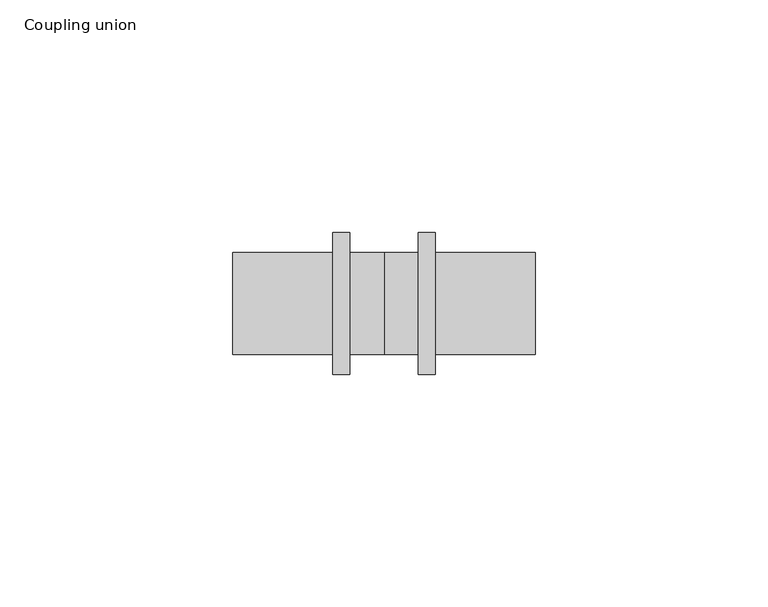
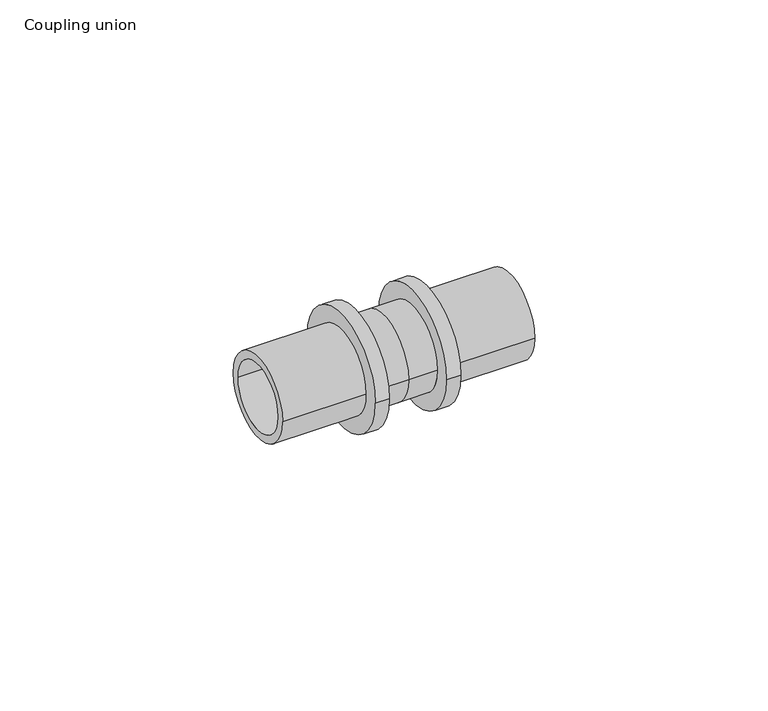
"""IFC4 building model written with IfcOpenShell, lengths in millimetres: pipe fitting geometry, Coupling union : C EQ SDR11 LX."""

from ifc_helpers import new_model, si_unit, frame, origin, place, context, project, spatial, polyline, circle_curve, source, transform, mapped, element, save
from ifc_brep_helpers import plane_surface, cylinder_surface, revolved_surface, advanced_brep


def coupling_union_24488497(model_context):
    return source(origin(), model_context, "Body", "AdvancedBrep", [
        advanced_brep(
        [(11.0, 15.25, 0.0), (11.0, -15.25, 0.0), (7.4, -15.25, 0.0), (7.4, 15.25, 0.0), (32.5, 11.0, 0.0), (32.5, -11.0, 0.0), (11.0, -11.0, 0.0), (11.0, 11.0, 0.0), (-32.5, 8.9, 0.0), (-32.5, -8.9, 0.0), (32.5, -8.9, 0.0), (32.5, 8.9, 0.0), (-11.0, 11.0, 0.0), (-11.0, -11.0, 0.0), (-32.5, -11.0, 0.0), (-32.5, 11.0, 0.0), (-7.4, 15.25, 0.0), (-7.4, -15.25, 0.0), (-11.0, -15.25, 0.0), (-11.0, 15.25, 0.0), (0.0, 11.0, 0.0), (0.0, -11.0, 0.0), (-7.4, -11.0, 0.0), (-7.4, 11.0, 0.0), (7.4, 11.0, 0.0), (7.4, -11.0, 0.0)],
        [
            (0, 1, circle_curve(frame((11.0, 0.0, 0.0), z_axis=(-1.0, 0.0, 0.0), x_axis=(0.0, -1.0, 0.0)), 15.25)),
            (1, 2),
            (2, 3, circle_curve(frame((7.4, 0.0, 0.0), z_axis=(1.0, 0.0, 0.0), x_axis=(0.0, -1.0, 0.0)), 15.25)),
            (3, 0),
            (4, 5, circle_curve(frame((32.5, 0.0, 0.0), z_axis=(-1.0, 0.0, 0.0), x_axis=(0.0, -1.0, 0.0)), 11.0)),
            (5, 6),
            (6, 7, circle_curve(frame((11.0, 0.0, 0.0), z_axis=(1.0, 0.0, 0.0), x_axis=(0.0, -1.0, 0.0)), 11.0)),
            (7, 4),
            (8, 9, circle_curve(frame((-32.5, 0.0, 0.0), z_axis=(-1.0, 0.0, 0.0), x_axis=(0.0, -1.0, 0.0)), 8.9)),
            (9, 10),
            (10, 11, circle_curve(frame((32.5, 0.0, 0.0), z_axis=(1.0, 0.0, 0.0), x_axis=(0.0, -1.0, 0.0)), 8.9)),
            (11, 8),
            (12, 13, circle_curve(frame((-11.0, 0.0, 0.0), z_axis=(-1.0, 0.0, 0.0), x_axis=(0.0, -1.0, 0.0)), 11.0)),
            (13, 14),
            (14, 15, circle_curve(frame((-32.5, 0.0, 0.0), z_axis=(1.0, 0.0, 0.0), x_axis=(0.0, -1.0, 0.0)), 11.0)),
            (15, 12),
            (16, 17, circle_curve(frame((-7.4, 0.0, 0.0), z_axis=(-1.0, 0.0, 0.0), x_axis=(0.0, -1.0, 0.0)), 15.25)),
            (17, 18),
            (18, 19, circle_curve(frame((-11.0, 0.0, 0.0), z_axis=(1.0, 0.0, 0.0), x_axis=(0.0, -1.0, 0.0)), 15.25)),
            (19, 16),
            (20, 21, circle_curve(frame((0.0, 0.0, 0.0), z_axis=(-1.0, 0.0, 0.0), x_axis=(0.0, -1.0, 0.0)), 11.0)),
            (21, 22),
            (22, 23, circle_curve(frame((-7.4, 0.0, 0.0), z_axis=(1.0, 0.0, 0.0), x_axis=(0.0, -1.0, 0.0)), 11.0)),
            (23, 20),
            (24, 25, circle_curve(frame((7.4, 0.0, 0.0), z_axis=(-1.0, 0.0, 0.0), x_axis=(0.0, -1.0, 0.0)), 11.0)),
            (25, 21),
            (20, 24),
            (1, 0, circle_curve(frame((11.0, 0.0, 0.0), z_axis=(-1.0, 0.0, 0.0), x_axis=(0.0, 1.0, 0.0)), 15.25)),
            (3, 2, circle_curve(frame((7.4, 0.0, 0.0), z_axis=(1.0, 0.0, 0.0), x_axis=(0.0, 1.0, 0.0)), 15.25)),
            (6, 7, circle_curve(frame((11.0, 0.0, 0.0), z_axis=(-1.0, 0.0, 0.0), x_axis=(0.0, 1.0, 0.0)), 11.0)),
            (5, 4, circle_curve(frame((32.5, 0.0, 0.0), z_axis=(-1.0, 0.0, 0.0), x_axis=(0.0, 1.0, 0.0)), 11.0)),
            (10, 11, circle_curve(frame((32.5, 0.0, 0.0), z_axis=(-1.0, 0.0, 0.0), x_axis=(0.0, 1.0, 0.0)), 8.9)),
            (9, 8, circle_curve(frame((-32.5, 0.0, 0.0), z_axis=(-1.0, 0.0, 0.0), x_axis=(0.0, 1.0, 0.0)), 8.9)),
            (14, 15, circle_curve(frame((-32.5, 0.0, 0.0), z_axis=(-1.0, 0.0, 0.0), x_axis=(0.0, 1.0, 0.0)), 11.0)),
            (13, 12, circle_curve(frame((-11.0, 0.0, 0.0), z_axis=(-1.0, 0.0, 0.0), x_axis=(0.0, 1.0, 0.0)), 11.0)),
            (18, 19, circle_curve(frame((-11.0, 0.0, 0.0), z_axis=(-1.0, 0.0, 0.0), x_axis=(0.0, 1.0, 0.0)), 15.25)),
            (17, 16, circle_curve(frame((-7.4, 0.0, 0.0), z_axis=(-1.0, 0.0, 0.0), x_axis=(0.0, 1.0, 0.0)), 15.25)),
            (22, 23, circle_curve(frame((-7.4, 0.0, 0.0), z_axis=(-1.0, 0.0, 0.0), x_axis=(0.0, 1.0, 0.0)), 11.0)),
            (21, 20, circle_curve(frame((0.0, 0.0, 0.0), z_axis=(-1.0, 0.0, 0.0), x_axis=(0.0, 1.0, 0.0)), 11.0)),
            (25, 24, circle_curve(frame((7.4, 0.0, 0.0), z_axis=(-1.0, 0.0, 0.0), x_axis=(0.0, 1.0, 0.0)), 11.0)),
        ],
        [
            cylinder_surface(frame((0.0, 0.0, 0.0), z_axis=(1.0, 0.0, 0.0), x_axis=(0.0, -1.0, 0.0)), 15.25),
            cylinder_surface(frame((0.0, 0.0, 0.0), z_axis=(1.0, 0.0, 0.0), x_axis=(0.0, -1.0, 0.0)), 11.0),
            revolved_surface(polyline([(32.5, -8.9, 0.0), (-32.5, -8.9, 0.0)]), (0.0, 0.0, 0.0), (1.0, 0.0, 0.0)),
            cylinder_surface(frame((0.0, 0.0, 0.0), z_axis=(1.0, 0.0, 0.0), x_axis=(0.0, 1.0, 0.0)), 15.25),
            plane_surface(frame((11.0, 0.0, 0.0), z_axis=(1.0, 0.0, 0.0), x_axis=(0.0, 1.0, 0.0))),
            cylinder_surface(frame((0.0, 0.0, 0.0), z_axis=(1.0, 0.0, 0.0), x_axis=(0.0, 1.0, 0.0)), 11.0),
            plane_surface(frame((32.5, 0.0, 0.0), z_axis=(1.0, 0.0, 0.0), x_axis=(0.0, 1.0, 0.0))),
            revolved_surface(polyline([(32.5, 8.9, 0.0), (-32.5, 8.9, 0.0)]), (0.0, 0.0, 0.0), (1.0, 0.0, 0.0)),
            plane_surface(frame((-32.5, 0.0, 0.0), z_axis=(-1.0, 0.0, 0.0), x_axis=(0.0, 1.0, 0.0))),
            plane_surface(frame((-11.0, 0.0, 0.0), z_axis=(-1.0, 0.0, 0.0), x_axis=(0.0, 1.0, 0.0))),
            plane_surface(frame((-7.4, 0.0, 0.0), z_axis=(1.0, 0.0, 0.0), x_axis=(0.0, 1.0, 0.0))),
            plane_surface(frame((7.4, 0.0, 0.0), z_axis=(-1.0, 0.0, 0.0), x_axis=(0.0, 1.0, 0.0))),
        ],
        [
            (0, [[1, 2, 3, 4]]),
            (1, [[5, 6, 7, 8]]),
            (2, [[9, 10, 11, 12]]),
            (1, [[13, 14, 15, 16]]),
            (0, [[17, 18, 19, 20]]),
            (1, [[21, 22, 23, 24]]),
            (1, [[25, 26, -21, 27]]),
            (3, [[28, -4, 29, -2]]),
            (4, [[-28, -1], [30, -7]]),
            (5, [[31, -8, -30, -6]]),
            (6, [[-31, -5], [32, -11]]),
            (7, [[33, -12, -32, -10]]),
            (8, [[34, -15], [-33, -9]]),
            (5, [[35, -16, -34, -14]]),
            (9, [[36, -19], [-35, -13]]),
            (3, [[37, -20, -36, -18]]),
            (10, [[-37, -17], [38, -23]]),
            (5, [[39, -24, -38, -22]]),
            (5, [[40, -27, -39, -26]]),
            (11, [[-29, -3], [-40, -25]]),
        ],
    ),
    ])


if __name__ == "__main__":
    model = new_model("IFC4")
    model_context = context("Model", 3, world=origin())
    ifc_project = project(units=[si_unit("LENGTHUNIT", "METRE", prefix="MILLI")], contexts=[model_context])
    site = spatial("IfcSite", under=ifc_project)
    building = spatial("IfcBuilding", under=site)
    placement = place(None, origin())
    coupling_union_shape = coupling_union_24488497(model_context)
    element("IfcPipeFitting", 1, ObjectType="Coupling union : C EQ SDR11 LX", at=placement, inside=building, context=model_context, shape_type="MappedRepresentation", body=[
        mapped(coupling_union_shape, transform((0.0, 0.0, 0.0), x_axis=(1.0, 0.0, 0.0), y_axis=(0.0, 1.0, 0.0), z_axis=(0.0, 0.0, 1.0))),
    ])
    save(model, "model.ifc")
